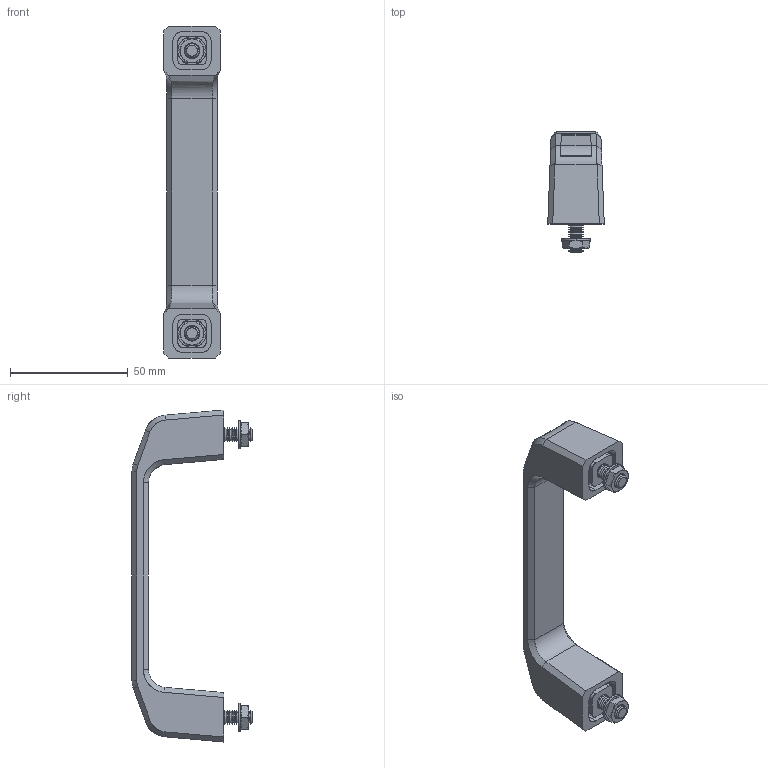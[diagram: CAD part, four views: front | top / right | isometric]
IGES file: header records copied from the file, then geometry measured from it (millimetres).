
Start section: SolidWorks IGES file using analytic representation for surfaces
Global section: file name: C:\Documents and Settings\IANO\Desktop\Temp File\Process pending\PCN pending\79100_v2\79100_v2_20170116_IGES\79100.W0120-6.igs; native system: SolidWorks 2009; preprocessor: SolidWorks 2009; author: IANO; date: 170310.123945; units: millimetre
Bounding box: 24 x 51 x 141 mm (x, y, z)
Surface area: 20447.8 mm2 (no closed solid volume)
Topology: 0 solids, 0 shells, 422 faces, 3332 edges, 3328 vertices
Faces by surface type: revolution 292, bspline 130
